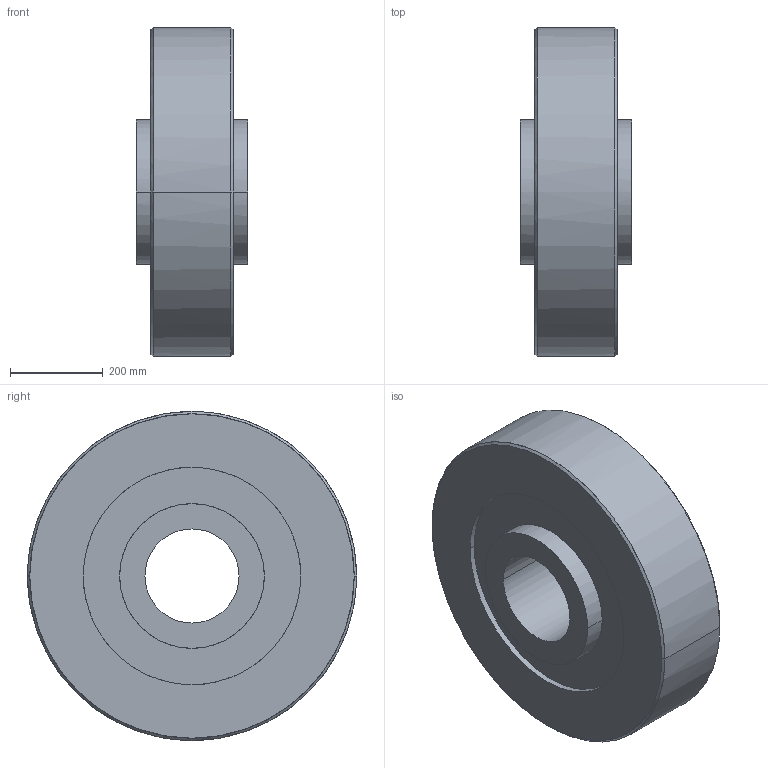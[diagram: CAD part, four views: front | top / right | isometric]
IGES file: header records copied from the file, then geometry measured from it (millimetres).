
Global section: native system: Kubotek KeyCreator; preprocessor: KCM Version 1.1.1442.0; author: KeyCreator User; organization: Self; date: 20170713.015519; units: inch
Bounding box: 241.3 x 711.2 x 711.2 mm (x, y, z)
Surface area: 1392808.8 mm2 (no closed solid volume)
Topology: 0 solids, 0 shells, 22 faces, 144 edges, 144 vertices
Faces by surface type: bspline 22
